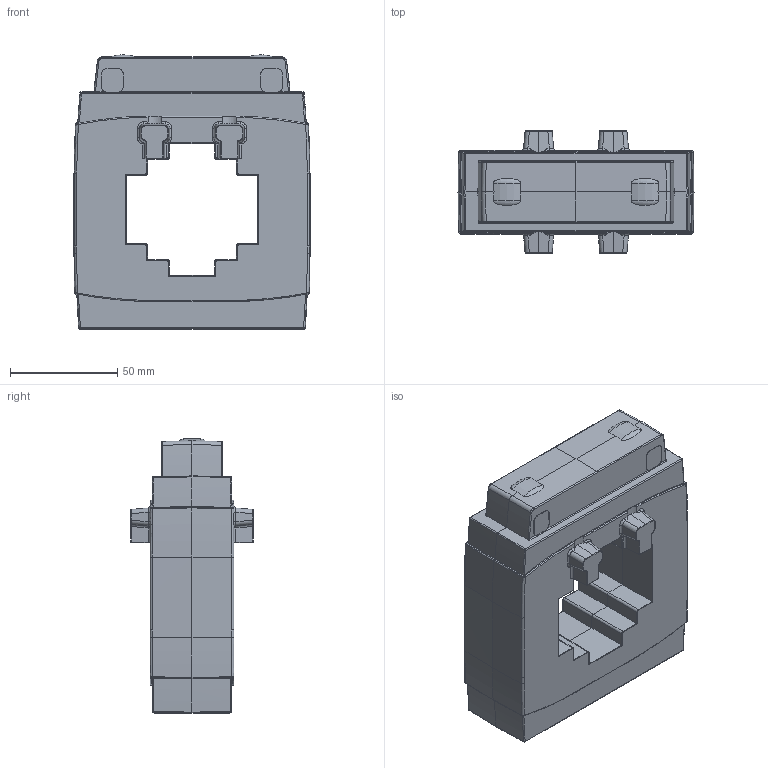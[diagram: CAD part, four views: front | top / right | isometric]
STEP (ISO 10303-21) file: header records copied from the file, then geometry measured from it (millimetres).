
FILE_DESCRIPTION(/* description */ (''),/* implementation_level */ '2;1');
FILE_NAME(/* name */ 'ENT.A60.stp',/* time_stamp */ '2021-03-18T11:42:33+03:00',/* author */ (''),/* organization */ (''),/* preprocessor_version */ 'ST-DEVELOPER v16',/* originating_system */ 'SIEMENS PLM Software NX 11.0',/* authorisation */ '');
FILE_SCHEMA (('AUTOMOTIVE_DESIGN { 1 0 10303 214 3 1 1 1 }'));
Length unit declared in the file: millimetre
Products named in the file (1): ENT.A60
Bounding box: 110 x 57 x 127.82 mm (x, y, z)
Volume: 394902.2 mm3; surface area: 49148.5 mm2
Topology: 1 solids, 1 shells, 539 faces, 1398 edges, 837 vertices
Faces by surface type: cylinder 193, plane 159, bspline 115, torus 28, cone 24, sphere 20
Entity records: 18478 total; most frequent: CARTESIAN_POINT 6341, ORIENTED_EDGE 2752, DIRECTION 2317, EDGE_CURVE 1376, AXIS2_PLACEMENT_3D 892, VERTEX_POINT 837, ADVANCED_FACE 539, FACE_OUTER_BOUND 539
